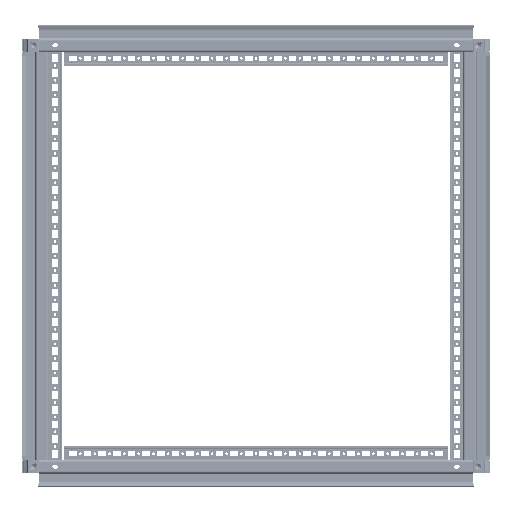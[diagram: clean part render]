
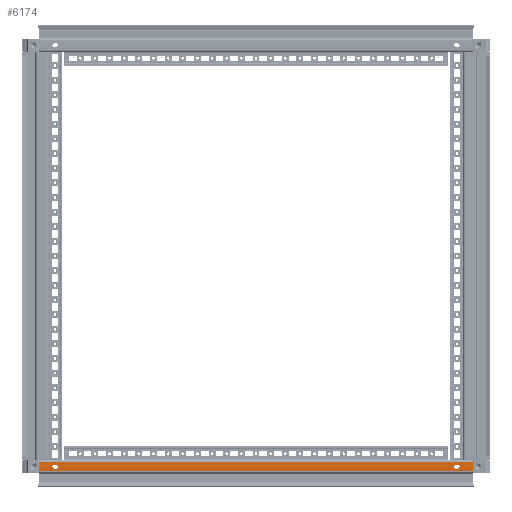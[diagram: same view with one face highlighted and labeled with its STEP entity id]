
A CAD part, front view. The second image highlights one B-rep face of the part: STEP entity #6174.
In plain terms, the highlighted planar face has unit normal (0, -1, 0) as drawn and (-1, 0, 0) by its records, which use the part's own axes.
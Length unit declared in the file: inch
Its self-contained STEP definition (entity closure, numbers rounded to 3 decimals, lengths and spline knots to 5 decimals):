
#2297 = EDGE_CURVE ( 'NONE', #2354, #2300, #36195, .T. ) ;
#2300 = VERTEX_POINT ( 'NONE', #36191 ) ;
#2354 = VERTEX_POINT ( 'NONE', #36233 ) ;
#2845 = EDGE_CURVE ( 'NONE', #6099, #23557, #37278, .T. ) ;
#2854 = ORIENTED_EDGE ( 'NONE', *, *, #2845, .F. ) ;
#2855 = ORIENTED_EDGE ( 'NONE', *, *, #24613, .F. ) ;
#2868 = EDGE_CURVE ( 'NONE', #2300, #24615, #37309, .T. ) ;
#2887 = ORIENTED_EDGE ( 'NONE', *, *, #2868, .F. ) ;
#2900 = ORIENTED_EDGE ( 'NONE', *, *, #6207, .T. ) ;
#2901 = ORIENTED_EDGE ( 'NONE', *, *, #23337, .F. ) ;
#2908 = EDGE_LOOP ( 'NONE', ( #2900, #2855, #2887, #2915 ) ) ;
#2915 = ORIENTED_EDGE ( 'NONE', *, *, #2297, .F. ) ;
#6088 = ORIENTED_EDGE ( 'NONE', *, *, #6089, .F. ) ;
#6089 = EDGE_CURVE ( 'NONE', #6184, #23451, #47503, .T. ) ;
#6093 = EDGE_LOOP ( 'NONE', ( #6095, #6100, #6170, #2901, #2854 ) ) ;
#6095 = ORIENTED_EDGE ( 'NONE', *, *, #6097, .F. ) ;
#6097 = EDGE_CURVE ( 'NONE', #6098, #6099, #47496, .T. ) ;
#6098 = VERTEX_POINT ( 'NONE', #47492 ) ;
#6099 = VERTEX_POINT ( 'NONE', #47491 ) ;
#6100 = ORIENTED_EDGE ( 'NONE', *, *, #6102, .F. ) ;
#6102 = EDGE_CURVE ( 'NONE', #6103, #6098, #47490, .T. ) ;
#6103 = VERTEX_POINT ( 'NONE', #47485 ) ;
#6170 = ORIENTED_EDGE ( 'NONE', *, *, #6172, .F. ) ;
#6172 = EDGE_CURVE ( 'NONE', #23566, #6103, #47561, .T. ) ;
#6174 = ADVANCED_FACE ( 'NONE', ( #47549, #47548, #47547 ), #47546, .F. ) ;
#6177 = EDGE_LOOP ( 'NONE', ( #6179, #6185, #6191, #6195, #6088 ) ) ;
#6179 = ORIENTED_EDGE ( 'NONE', *, *, #6182, .F. ) ;
#6182 = EDGE_CURVE ( 'NONE', #6183, #6184, #47544, .T. ) ;
#6183 = VERTEX_POINT ( 'NONE', #47600 ) ;
#6184 = VERTEX_POINT ( 'NONE', #47599 ) ;
#6185 = ORIENTED_EDGE ( 'NONE', *, *, #6186, .F. ) ;
#6186 = EDGE_CURVE ( 'NONE', #6188, #6183, #47598, .T. ) ;
#6188 = VERTEX_POINT ( 'NONE', #47593 ) ;
#6191 = ORIENTED_EDGE ( 'NONE', *, *, #6193, .F. ) ;
#6193 = EDGE_CURVE ( 'NONE', #23572, #6188, #47592, .T. ) ;
#6195 = ORIENTED_EDGE ( 'NONE', *, *, #23570, .F. ) ;
#6207 = EDGE_CURVE ( 'NONE', #2354, #24611, #47582, .T. ) ;
#23337 = EDGE_CURVE ( 'NONE', #23557, #23566, #29217, .T. ) ;
#23451 = VERTEX_POINT ( 'NONE', #30055 ) ;
#23557 = VERTEX_POINT ( 'NONE', #30527 ) ;
#23566 = VERTEX_POINT ( 'NONE', #30503 ) ;
#23570 = EDGE_CURVE ( 'NONE', #23451, #23572, #30496, .T. ) ;
#23572 = VERTEX_POINT ( 'NONE', #30489 ) ;
#24611 = VERTEX_POINT ( 'NONE', #31836 ) ;
#24613 = EDGE_CURVE ( 'NONE', #24615, #24611, #31830, .T. ) ;
#24615 = VERTEX_POINT ( 'NONE', #31826 ) ;
#29210 = DIRECTION ( 'NONE',  ( 0., 0., -1. ) ) ;
#29212 = DIRECTION ( 'NONE',  ( -1., 0., 0. ) ) ;
#29213 = CARTESIAN_POINT ( 'NONE',  ( -0.09843, 0., 13.54331 ) ) ;
#29215 = AXIS2_PLACEMENT_3D ( 'NONE', #29213, #29212, #29210 ) ;
#29217 = CIRCLE ( 'NONE', #29215, 0.14173 ) ;
#30055 = CARTESIAN_POINT ( 'NONE',  ( -0.09843, 0., -13.32283 ) ) ;
#30489 = CARTESIAN_POINT ( 'NONE',  ( -0.09843, 0.14173, -13.46457 ) ) ;
#30490 = DIRECTION ( 'NONE',  ( 0., 0., -1. ) ) ;
#30492 = DIRECTION ( 'NONE',  ( -1., 0., 0. ) ) ;
#30493 = CARTESIAN_POINT ( 'NONE',  ( -0.09843, 0., -13.46457 ) ) ;
#30494 = AXIS2_PLACEMENT_3D ( 'NONE', #30493, #30492, #30490 ) ;
#30496 = CIRCLE ( 'NONE', #30494, 0.14173 ) ;
#30503 = CARTESIAN_POINT ( 'NONE',  ( -0.09843, 0.14173, 13.54331 ) ) ;
#30527 = CARTESIAN_POINT ( 'NONE',  ( -0.09843, 0., 13.68504 ) ) ;
#31826 = CARTESIAN_POINT ( 'NONE',  ( -0.09843, -0.31496, -14.58661 ) ) ;
#31827 = DIRECTION ( 'NONE',  ( 0., 1., 0. ) ) ;
#31828 = VECTOR ( 'NONE', #31827, 39.37008 ) ;
#31829 = CARTESIAN_POINT ( 'NONE',  ( -0.09843, -1.07792, -14.58661 ) ) ;
#31830 = LINE ( 'NONE', #31829, #31828 ) ;
#31836 = CARTESIAN_POINT ( 'NONE',  ( -0.09843, 0.31496, -14.58661 ) ) ;
#36191 = CARTESIAN_POINT ( 'NONE',  ( -0.09843, -0.31496, 14.58661 ) ) ;
#36192 = DIRECTION ( 'NONE',  ( 0., -1., 0. ) ) ;
#36193 = VECTOR ( 'NONE', #36192, 39.37008 ) ;
#36194 = CARTESIAN_POINT ( 'NONE',  ( -0.09843, -1.07792, 14.58661 ) ) ;
#36195 = LINE ( 'NONE', #36194, #36193 ) ;
#36233 = CARTESIAN_POINT ( 'NONE',  ( -0.09843, 0.31496, 14.58661 ) ) ;
#37274 = DIRECTION ( 'NONE',  ( 0., 0., -1. ) ) ;
#37275 = DIRECTION ( 'NONE',  ( -1., 0., 0. ) ) ;
#37276 = CARTESIAN_POINT ( 'NONE',  ( -0.09843, 0., 13.54331 ) ) ;
#37277 = AXIS2_PLACEMENT_3D ( 'NONE', #37276, #37275, #37274 ) ;
#37278 = CIRCLE ( 'NONE', #37277, 0.14173 ) ;
#37306 = DIRECTION ( 'NONE',  ( 0., 0., -1. ) ) ;
#37307 = VECTOR ( 'NONE', #37306, 39.37008 ) ;
#37308 = CARTESIAN_POINT ( 'NONE',  ( -0.09843, -0.31496, 14.68504 ) ) ;
#37309 = LINE ( 'NONE', #37308, #37307 ) ;
#47485 = CARTESIAN_POINT ( 'NONE',  ( -0.09843, 0.14173, 13.46457 ) ) ;
#47486 = DIRECTION ( 'NONE',  ( 0., 0., 1. ) ) ;
#47487 = DIRECTION ( 'NONE',  ( -1., 0., 0. ) ) ;
#47488 = CARTESIAN_POINT ( 'NONE',  ( -0.09843, 0., 13.46457 ) ) ;
#47489 = AXIS2_PLACEMENT_3D ( 'NONE', #47488, #47487, #47486 ) ;
#47490 = CIRCLE ( 'NONE', #47489, 0.14173 ) ;
#47491 = CARTESIAN_POINT ( 'NONE',  ( -0.09843, -0.14173, 13.54331 ) ) ;
#47492 = CARTESIAN_POINT ( 'NONE',  ( -0.09843, -0.14173, 13.46457 ) ) ;
#47493 = DIRECTION ( 'NONE',  ( 0., 0., 1. ) ) ;
#47494 = VECTOR ( 'NONE', #47493, 39.37008 ) ;
#47495 = CARTESIAN_POINT ( 'NONE',  ( -0.09843, -0.14173, 13.46457 ) ) ;
#47496 = LINE ( 'NONE', #47495, #47494 ) ;
#47497 = DIRECTION ( 'NONE',  ( 0., 0., -1. ) ) ;
#47498 = DIRECTION ( 'NONE',  ( -1., 0., 0. ) ) ;
#47499 = CARTESIAN_POINT ( 'NONE',  ( -0.09843, 0., -13.46457 ) ) ;
#47500 = AXIS2_PLACEMENT_3D ( 'NONE', #47499, #47498, #47497 ) ;
#47503 = CIRCLE ( 'NONE', #47500, 0.14173 ) ;
#47537 = DIRECTION ( 'NONE',  ( 0., 0., 1. ) ) ;
#47538 = VECTOR ( 'NONE', #47537, 39.37008 ) ;
#47539 = CARTESIAN_POINT ( 'NONE',  ( -0.09843, -0.14173, -13.46457 ) ) ;
#47541 = DIRECTION ( 'NONE',  ( 0., 0., -1. ) ) ;
#47542 = DIRECTION ( 'NONE',  ( 1., 0., 0. ) ) ;
#47543 = CARTESIAN_POINT ( 'NONE',  ( -0.09843, -0.35433, 14.68504 ) ) ;
#47544 = LINE ( 'NONE', #47539, #47538 ) ;
#47545 = AXIS2_PLACEMENT_3D ( 'NONE', #47543, #47542, #47541 ) ;
#47546 = PLANE ( 'NONE',  #47545 ) ;
#47547 = FACE_OUTER_BOUND ( 'NONE', #2908, .T. ) ;
#47548 = FACE_BOUND ( 'NONE', #6093, .T. ) ;
#47549 = FACE_BOUND ( 'NONE', #6177, .T. ) ;
#47555 = DIRECTION ( 'NONE',  ( 0., 0., -1. ) ) ;
#47556 = VECTOR ( 'NONE', #47555, 39.37008 ) ;
#47557 = CARTESIAN_POINT ( 'NONE',  ( -0.09843, 0.14173, 13.46457 ) ) ;
#47561 = LINE ( 'NONE', #47557, #47556 ) ;
#47579 = DIRECTION ( 'NONE',  ( 0., 0., -1. ) ) ;
#47580 = VECTOR ( 'NONE', #47579, 39.37008 ) ;
#47581 = CARTESIAN_POINT ( 'NONE',  ( -0.09843, 0.31496, 14.68504 ) ) ;
#47582 = LINE ( 'NONE', #47581, #47580 ) ;
#47589 = DIRECTION ( 'NONE',  ( 0., 0., -1. ) ) ;
#47590 = VECTOR ( 'NONE', #47589, 39.37008 ) ;
#47591 = CARTESIAN_POINT ( 'NONE',  ( -0.09843, 0.14173, -13.46457 ) ) ;
#47592 = LINE ( 'NONE', #47591, #47590 ) ;
#47593 = CARTESIAN_POINT ( 'NONE',  ( -0.09843, 0.14173, -13.54331 ) ) ;
#47594 = DIRECTION ( 'NONE',  ( 0., 0., 1. ) ) ;
#47595 = DIRECTION ( 'NONE',  ( -1., 0., 0. ) ) ;
#47596 = CARTESIAN_POINT ( 'NONE',  ( -0.09843, 0., -13.54331 ) ) ;
#47597 = AXIS2_PLACEMENT_3D ( 'NONE', #47596, #47595, #47594 ) ;
#47598 = CIRCLE ( 'NONE', #47597, 0.14173 ) ;
#47599 = CARTESIAN_POINT ( 'NONE',  ( -0.09843, -0.14173, -13.46457 ) ) ;
#47600 = CARTESIAN_POINT ( 'NONE',  ( -0.09843, -0.14173, -13.54331 ) ) ;
